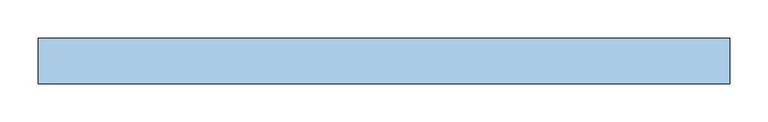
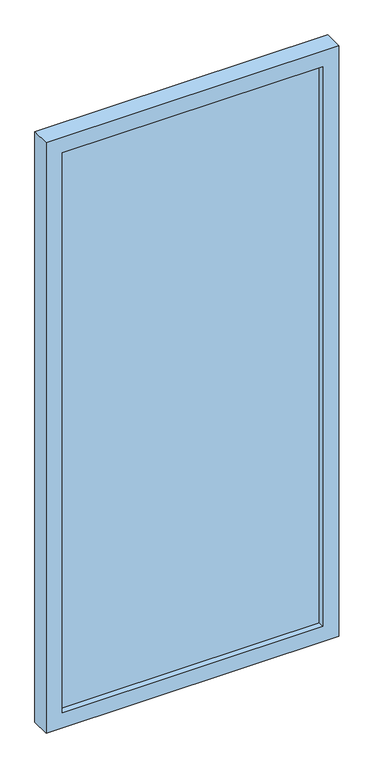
"""IFC4 building model written with IfcOpenShell, lengths in millimetres: window geometry, Витраж-тент Фронтсайд по наружной грани : Витраж-тент."""

from ifc_helpers import new_model, si_unit, frame, origin, place, context, project, spatial, polyline, outline, extrude, source, transform, mapped, element, save


def window_32849c04(model_context):
    return source(origin(), model_context, "Body", "SweptSolid", [
        extrude(outline(polyline([(405.0, 109.05), (-405.0, 109.05), (-405.0, 121.75), (405.0, 121.75), (405.0, 109.05)])), frame((0.0, 0.0, 50.0), z_axis=(0.0, 0.0, 1.0), x_axis=(1.0, 0.0, 0.0)), (0.0, 0.0, 1.0), 1840.0),
        extrude(outline(polyline([(1940.0, -455.0), (0.0, -455.0), (0.0, 455.0), (1940.0, 455.0), (1940.0, -455.0)]), holes=[polyline([(1890.0, -405.0), (1890.0, 405.0), (50.0, 405.0), (50.0, -405.0), (1890.0, -405.0)])]), frame((0.0, 90.0, 0.0), z_axis=(0.0, 1.0, 0.0), x_axis=(0.0, 0.0, 1.0)), (0.0, 0.0, 1.0), 60.0),
    ])


if __name__ == "__main__":
    model = new_model("IFC4")
    model_context = context("Model", 3, world=origin())
    ifc_project = project(units=[si_unit("LENGTHUNIT", "METRE", prefix="MILLI")], contexts=[model_context])
    site = spatial("IfcSite", under=ifc_project)
    building = spatial("IfcBuilding", under=site)
    placement = place(None, origin())
    window_shape = window_32849c04(model_context)
    element("IfcWindow", 1, ObjectType="Витраж-тент Фронтсайд по наружной грани : Витраж-тент", at=placement, inside=building, context=model_context, shape_type="MappedRepresentation", body=[
        mapped(window_shape, transform((0.0, 0.0, 0.0), x_axis=(1.0, 0.0, 0.0), y_axis=(0.0, 1.0, 0.0), z_axis=(0.0, 0.0, 1.0))),
    ])
    save(model, "model.ifc")
